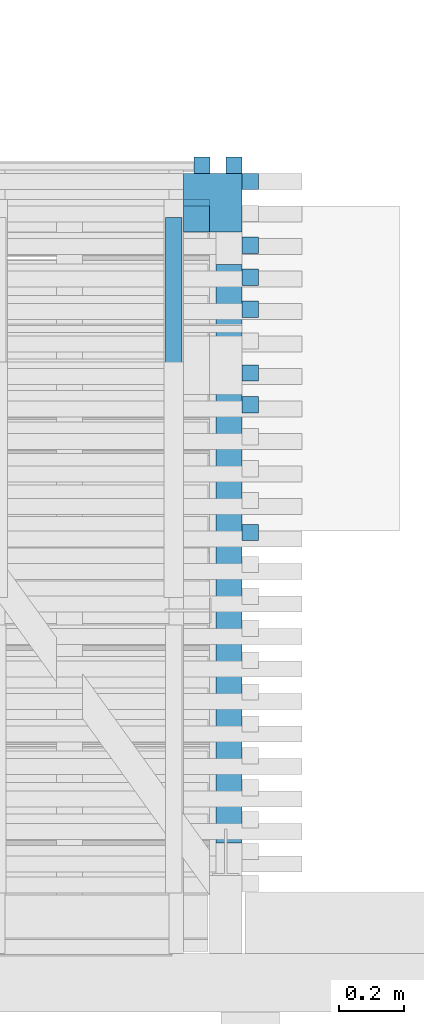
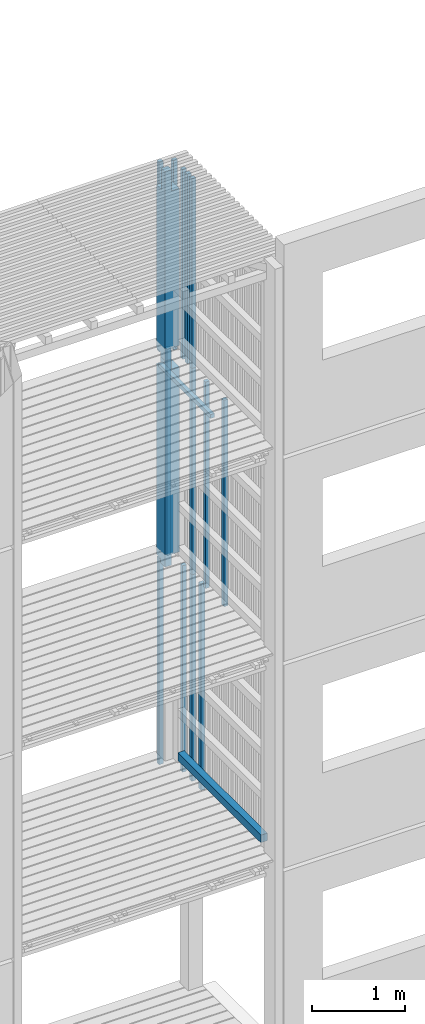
# One storey, part 107 of 182: 17 beams.
"""IFC2X3 building model written with IfcOpenShell, lengths in metres."""

from ifc_helpers import new_model, si_unit, frame, origin, place, context, project, spatial, faceted_brep, element, save


model = new_model("IFC2X3")

# Units and contexts
model_context = context("Model", 3, precision=1e-06, world=origin())
ifc_project = project(units=[si_unit("LENGTHUNIT", "METRE"), si_unit("PLANEANGLEUNIT", "RADIAN")], contexts=[model_context])

# Site, building, storey
site = spatial("IfcSite", under=ifc_project, CompositionType="ELEMENT")
building = spatial("IfcBuilding", under=site, CompositionType="ELEMENT")
storey = spatial("IfcBuildingStorey", under=building, Name="vs", CompositionType="ELEMENT", Elevation=-0.85)

# Beams
placement = place(None, origin())
beam_1_placement = place(placement, frame((46.320401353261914, 7.295077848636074, 5.274999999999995), z_axis=(0.0, -1.0, 0.0), x_axis=(0.0, 0.0, 1.0)))
element("IfcBeam", 1, at=beam_1_placement, inside=storey, Name="Bardage", context=model_context, shape_type="Brep", body=[
    faceted_brep([(2.699999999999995, 0.025000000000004, 0.025000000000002), (2.699999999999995, -0.025000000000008, 0.025000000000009), (2.699999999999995, -0.025000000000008, -0.024999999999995), (2.699999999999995, 0.02499999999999, -0.025000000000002), (1e-15, 0.025000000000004, 0.025000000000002), (2.699999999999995, 0.025000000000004, 0.025000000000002), (2.699999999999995, 0.02499999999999, -0.025000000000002), (1e-15, 0.02499999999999, -0.025000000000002), (1e-15, -0.025000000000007, 0.025000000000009), (1e-15, 0.025000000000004, 0.025000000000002), (1e-15, 0.02499999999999, -0.025000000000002), (1e-15, -0.025000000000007, -0.024999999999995), (1e-15, 0.025000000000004, 0.025000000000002), (1e-15, -0.025000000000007, 0.025000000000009), (2.699999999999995, -0.025000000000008, 0.025000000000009), (2.699999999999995, 0.025000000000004, 0.025000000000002), (1e-15, -0.025000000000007, 0.025000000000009), (1e-15, -0.025000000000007, -0.024999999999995), (2.699999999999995, -0.025000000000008, -0.024999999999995), (2.699999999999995, -0.025000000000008, 0.025000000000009), (1e-15, -0.025000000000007, -0.024999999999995), (1e-15, 0.02499999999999, -0.025000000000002), (2.699999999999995, 0.02499999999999, -0.025000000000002), (2.699999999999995, -0.025000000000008, -0.024999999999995)], [[[0, 1, 2, 3]], [[4, 5, 6, 7]], [[8, 9, 10, 11]], [[12, 13, 14, 15]], [[16, 17, 18, 19]], [[20, 21, 22, 23]]]),
])
beam_2_placement = place(placement, frame((46.37040135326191, 7.048714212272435, 2.575000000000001), z_axis=(-1.0, 0.0, 0.0), x_axis=(0.0, 0.0, 1.0)))
element("IfcBeam", 2, at=beam_2_placement, inside=storey, Name="Bardage", context=model_context, shape_type="Brep", body=[
    faceted_brep([(0.0, -0.025000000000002, 0.024999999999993), (0.0, 0.024999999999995, 0.024999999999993), (0.0, 0.024999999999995, -0.025000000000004), (0.0, -0.025000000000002, -0.025000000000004), (2.699961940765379, 0.024999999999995, -0.025000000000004), (2.699961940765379, 0.024999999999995, 0.024999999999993), (2.699961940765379, -0.025000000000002, 0.024999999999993), (2.699961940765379, -0.025000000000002, -0.025000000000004), (0.0, -0.025000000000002, -0.025000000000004), (0.0, 0.024999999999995, -0.025000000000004), (2.699961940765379, 0.024999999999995, -0.025000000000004), (2.699961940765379, -0.025000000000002, -0.025000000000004), (2.699961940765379, 0.024999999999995, -0.025000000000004), (0.0, 0.024999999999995, -0.025000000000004), (0.0, 0.024999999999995, 0.024999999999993), (2.699961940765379, 0.024999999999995, 0.024999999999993), (2.699961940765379, 0.024999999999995, 0.024999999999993), (0.0, 0.024999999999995, 0.024999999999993), (0.0, -0.025000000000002, 0.024999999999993), (2.699961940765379, -0.025000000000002, 0.024999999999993), (2.699961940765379, -0.025000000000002, 0.024999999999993), (0.0, -0.025000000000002, 0.024999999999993), (0.0, -0.025000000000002, -0.025000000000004), (2.699961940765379, -0.025000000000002, -0.025000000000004)], [[[0, 1, 2, 3]], [[4, 5, 6, 7]], [[8, 9, 10, 11]], [[12, 13, 14, 15]], [[16, 17, 18, 19]], [[20, 21, 22, 23]]]),
])
beam_3_placement = place(placement, frame((46.37040135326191, 6.655986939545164, 2.575000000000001), z_axis=(-1.0, 0.0, 0.0), x_axis=(0.0, 0.0, 1.0)))
element("IfcBeam", 3, at=beam_3_placement, inside=storey, Name="Bardage", context=model_context, shape_type="Brep", body=[
    faceted_brep([(0.0, -0.025000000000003, 0.024999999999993), (0.0, 0.025000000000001, 0.024999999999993), (0.0, 0.025000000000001, -0.025000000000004), (0.0, -0.025000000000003, -0.025000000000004), (2.699961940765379, 0.025000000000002, -0.025000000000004), (2.699961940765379, 0.025000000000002, 0.024999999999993), (2.699961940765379, -0.024999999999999, 0.024999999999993), (2.699961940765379, -0.024999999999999, -0.025000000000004), (0.0, -0.025000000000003, -0.025000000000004), (0.0, 0.025000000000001, -0.025000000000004), (2.699961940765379, 0.025000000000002, -0.025000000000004), (2.699961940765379, -0.024999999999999, -0.025000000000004), (2.699961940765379, 0.025000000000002, -0.025000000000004), (0.0, 0.025000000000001, -0.025000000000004), (0.0, 0.025000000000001, 0.024999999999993), (2.699961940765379, 0.025000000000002, 0.024999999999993), (2.699961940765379, 0.025000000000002, 0.024999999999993), (0.0, 0.025000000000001, 0.024999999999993), (0.0, -0.025000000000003, 0.024999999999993), (2.699961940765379, -0.024999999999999, 0.024999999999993), (2.699961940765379, -0.024999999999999, 0.024999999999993), (0.0, -0.025000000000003, 0.024999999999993), (0.0, -0.025000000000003, -0.025000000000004), (2.699961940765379, -0.024999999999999, -0.025000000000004)], [[[0, 1, 2, 3]], [[4, 5, 6, 7]], [[8, 9, 10, 11]], [[12, 13, 14, 15]], [[16, 17, 18, 19]], [[20, 21, 22, 23]]]),
])
beam_4_placement = place(placement, frame((46.37040135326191, 6.950532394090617, 7.974999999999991), z_axis=(-1.0, 0.0, 0.0), x_axis=(0.0, 0.0, 1.0)))
element("IfcBeam", 4, at=beam_4_placement, inside=storey, Name="Bardage", context=model_context, shape_type="Brep", body=[
    faceted_brep([(2.479999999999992, -0.025000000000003, 0.024999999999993), (2.479999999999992, -0.025000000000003, -0.025000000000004), (2.479999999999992, 0.024999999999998, -0.025000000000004), (2.479999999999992, 0.024999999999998, 0.024999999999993), (0.0, 0.024999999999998, 0.024999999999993), (0.0, -0.025000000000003, 0.024999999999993), (2.479999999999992, -0.025000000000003, 0.024999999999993), (2.479999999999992, 0.024999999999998, 0.024999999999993), (0.0, -0.025000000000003, 0.024999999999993), (0.0, 0.024999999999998, 0.024999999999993), (0.0, 0.024999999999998, -0.025000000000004), (0.0, -0.025000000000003, -0.025000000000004), (0.0, 0.024999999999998, -0.025000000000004), (0.0, 0.024999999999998, 0.024999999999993), (2.479999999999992, 0.024999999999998, 0.024999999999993), (2.479999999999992, 0.024999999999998, -0.025000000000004), (0.0, -0.025000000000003, -0.025000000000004), (0.0, 0.024999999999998, -0.025000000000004), (2.479999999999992, 0.024999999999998, -0.025000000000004), (2.479999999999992, -0.025000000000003, -0.025000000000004), (2.479999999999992, -0.025000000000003, 0.024999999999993), (0.0, -0.025000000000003, 0.024999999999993), (0.0, -0.025000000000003, -0.025000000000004), (2.479999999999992, -0.025000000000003, -0.025000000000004)], [[[0, 1, 2, 3]], [[4, 5, 6, 7]], [[8, 9, 10, 11]], [[12, 13, 14, 15]], [[16, 17, 18, 19]], [[20, 21, 22, 23]]]),
])
beam_5_placement = place(placement, frame((46.25540135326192, 7.180077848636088, 7.979999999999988), z_axis=(0.0, -1.0, 0.0), x_axis=(0.0, 0.0, 1.0)))
element("IfcBeam", 5, at=beam_5_placement, inside=storey, Name="Poteau", context=model_context, shape_type="Brep", body=[
    faceted_brep([(2.474999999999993, 0.009999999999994, 0.089999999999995), (2.474999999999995, 0.009999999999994, 0.009999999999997), (2.474999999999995, 0.090000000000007, 0.009999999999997), (2.474999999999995, 0.090000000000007, 0.089999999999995), (2.194999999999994, 0.009999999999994, 0.089999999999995), (2.194999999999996, 0.009999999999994, 0.009999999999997), (2.474999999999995, 0.009999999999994, 0.009999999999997), (2.474999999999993, 0.009999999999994, 0.089999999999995), (2.194999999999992, -0.09, 0.089999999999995), (2.194999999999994, -0.09, -0.090000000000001), (2.194999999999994, 0.090000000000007, -0.090000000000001), (2.194999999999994, 0.090000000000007, 0.009999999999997), (2.194999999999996, 0.009999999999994, 0.009999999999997), (2.194999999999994, 0.009999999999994, 0.089999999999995), (2.474999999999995, 0.090000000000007, 0.009999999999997), (2.474999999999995, 0.009999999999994, 0.009999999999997), (2.194999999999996, 0.009999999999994, 0.009999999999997), (2.194999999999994, 0.090000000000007, 0.009999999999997), (0.059999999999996, 0.090000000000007, -0.010000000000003), (-1e-15, 0.090000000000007, -0.010000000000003), (-1e-15, 0.090000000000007, 0.089999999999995), (2.474999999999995, 0.090000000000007, 0.089999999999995), (2.474999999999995, 0.090000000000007, 0.009999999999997), (2.194999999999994, 0.090000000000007, 0.009999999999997), (2.194999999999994, 0.090000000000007, -0.090000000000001), (0.059999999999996, 0.090000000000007, -0.090000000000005), (0.139999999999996, -0.09, 0.089999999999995), (0.139999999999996, 0.009999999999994, 0.089999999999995), (0.139999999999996, 0.009999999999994, -0.090000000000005), (0.139999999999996, -0.09, -0.090000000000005), (-1e-15, 0.090000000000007, -0.010000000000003), (0.059999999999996, 0.090000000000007, -0.010000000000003), (0.059999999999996, 0.009999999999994, -0.009999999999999), (-1e-15, 0.009999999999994, -0.010000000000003), (-1e-15, 0.090000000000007, 0.089999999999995), (-1e-15, 0.090000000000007, -0.010000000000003), (-1e-15, 0.009999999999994, -0.010000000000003), (-1e-15, 0.009999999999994, 0.089999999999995), (0.139999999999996, 0.009999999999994, -0.090000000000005), (0.139999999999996, 0.009999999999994, 0.089999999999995), (-1e-15, 0.009999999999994, 0.089999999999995), (-1e-15, 0.009999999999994, -0.010000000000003), (0.059999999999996, 0.009999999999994, -0.009999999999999), (0.059999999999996, 0.009999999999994, -0.090000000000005), (0.059999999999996, 0.009999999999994, -0.090000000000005), (0.059999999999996, 0.009999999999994, -0.009999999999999), (0.059999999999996, 0.090000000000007, -0.010000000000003), (0.059999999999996, 0.090000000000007, -0.090000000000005), (0.139999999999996, -0.09, -0.090000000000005), (0.139999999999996, 0.009999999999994, -0.090000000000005), (0.059999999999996, 0.009999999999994, -0.090000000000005), (0.059999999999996, 0.090000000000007, -0.090000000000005), (2.194999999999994, 0.090000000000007, -0.090000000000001), (2.194999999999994, -0.09, -0.090000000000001), (2.194999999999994, -0.09, -0.090000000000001), (2.194999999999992, -0.09, 0.089999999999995), (0.139999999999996, -0.09, 0.089999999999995), (0.139999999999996, -0.09, -0.090000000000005), (-1e-15, 0.090000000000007, 0.089999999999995), (-1e-15, 0.009999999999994, 0.089999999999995), (0.139999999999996, 0.009999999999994, 0.089999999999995), (0.139999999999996, -0.09, 0.089999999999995), (2.194999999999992, -0.09, 0.089999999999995), (2.194999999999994, 0.009999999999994, 0.089999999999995), (2.474999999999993, 0.009999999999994, 0.089999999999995), (2.474999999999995, 0.090000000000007, 0.089999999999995)], [[[0, 1, 2, 3]], [[4, 5, 6, 7]], [[8, 9, 10, 11, 12, 13]], [[14, 15, 16, 17]], [[18, 19, 20, 21, 22, 23, 24, 25]], [[26, 27, 28, 29]], [[30, 31, 32, 33]], [[34, 35, 36, 37]], [[38, 39, 40, 41, 42, 43]], [[44, 45, 46, 47]], [[48, 49, 50, 51, 52, 53]], [[54, 55, 56, 57]], [[58, 59, 60, 61, 62, 63, 64, 65]]]),
])
beam_6_placement = place(placement, frame((46.37040135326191, 6.557805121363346, 5.274999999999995), z_axis=(-1.0, 0.0, 0.0), x_axis=(0.0, 0.0, 1.0)))
element("IfcBeam", 6, at=beam_6_placement, inside=storey, Name="Bardage", context=model_context, shape_type="Brep", body=[
    faceted_brep([(1e-15, -0.024999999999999, 0.024999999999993), (1e-15, 0.024999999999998, 0.024999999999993), (1e-15, 0.024999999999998, -0.025000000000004), (1e-15, -0.024999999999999, -0.025000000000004), (2.699999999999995, -0.024999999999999, -0.025000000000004), (2.699999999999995, 0.025000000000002, -0.025000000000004), (2.699999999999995, 0.025000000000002, 0.024999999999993), (2.699999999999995, -0.024999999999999, 0.024999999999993), (1e-15, -0.024999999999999, 0.024999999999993), (1e-15, -0.024999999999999, -0.025000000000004), (2.699999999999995, -0.024999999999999, -0.025000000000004), (2.699999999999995, -0.024999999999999, 0.024999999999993), (2.699999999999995, -0.024999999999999, -0.025000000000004), (1e-15, -0.024999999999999, -0.025000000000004), (1e-15, 0.024999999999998, -0.025000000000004), (2.699999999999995, 0.025000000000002, -0.025000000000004), (2.699999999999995, 0.025000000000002, -0.025000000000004), (1e-15, 0.024999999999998, -0.025000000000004), (1e-15, 0.024999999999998, 0.024999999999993), (2.699999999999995, 0.025000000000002, 0.024999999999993), (2.699999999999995, 0.025000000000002, 0.024999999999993), (1e-15, 0.024999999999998, 0.024999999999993), (1e-15, -0.024999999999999, 0.024999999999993), (2.699999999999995, -0.024999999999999, 0.024999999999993)], [[[0, 1, 2, 3]], [[4, 5, 6, 7]], [[8, 9, 10, 11]], [[12, 13, 14, 15]], [[16, 17, 18, 19]], [[20, 21, 22, 23]]]),
])
beam_7_placement = place(placement, frame((46.22221953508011, 7.295077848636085, 2.575000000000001), z_axis=(0.0, -1.0, 0.0), x_axis=(0.0, 0.0, 1.0)))
element("IfcBeam", 7, at=beam_7_placement, inside=storey, Name="Bardage", context=model_context, shape_type="Brep", body=[
    faceted_brep([(2.699961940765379, -0.024999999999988, 0.025000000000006), (2.699961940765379, -0.025000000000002, -0.024999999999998), (2.699961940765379, 0.024999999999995, -0.025000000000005), (2.699961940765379, 0.025000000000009, 0.024999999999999), (0.0, -0.024999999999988, 0.025000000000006), (2.699961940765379, -0.024999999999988, 0.025000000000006), (2.699961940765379, 0.025000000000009, 0.024999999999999), (0.0, 0.025000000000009, 0.024999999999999), (0.0, -0.024999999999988, 0.025000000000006), (0.0, 0.025000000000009, 0.024999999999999), (0.0, 0.024999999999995, -0.025000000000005), (0.0, -0.025000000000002, -0.024999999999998), (0.0, -0.024999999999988, 0.025000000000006), (0.0, -0.025000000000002, -0.024999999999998), (2.699961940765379, -0.025000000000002, -0.024999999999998), (2.699961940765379, -0.024999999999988, 0.025000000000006), (0.0, -0.025000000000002, -0.024999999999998), (0.0, 0.024999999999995, -0.025000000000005), (2.699961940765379, 0.024999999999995, -0.025000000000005), (2.699961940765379, -0.025000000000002, -0.024999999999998), (0.0, 0.024999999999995, -0.025000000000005), (0.0, 0.025000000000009, 0.024999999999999), (2.699961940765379, 0.025000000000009, 0.024999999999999), (2.699961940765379, 0.024999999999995, -0.025000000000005)], [[[0, 1, 2, 3]], [[4, 5, 6, 7]], [[8, 9, 10, 11]], [[12, 13, 14, 15]], [[16, 17, 18, 19]], [[20, 21, 22, 23]]]),
])
beam_8_placement = place(placement, frame((46.37040135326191, 6.852350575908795, 2.575000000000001), z_axis=(-1.0, 0.0, 0.0), x_axis=(0.0, 0.0, 1.0)))
element("IfcBeam", 8, at=beam_8_placement, inside=storey, Name="Bardage", context=model_context, shape_type="Brep", body=[
    faceted_brep([(0.0, -0.024999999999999, 0.024999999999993), (0.0, 0.025000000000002, 0.024999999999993), (0.0, 0.025000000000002, -0.025000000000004), (0.0, -0.024999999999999, -0.025000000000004), (2.699961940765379, 0.025000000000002, -0.025000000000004), (2.699961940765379, 0.025000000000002, 0.024999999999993), (2.699961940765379, -0.024999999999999, 0.024999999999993), (2.699961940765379, -0.024999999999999, -0.025000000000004), (0.0, -0.024999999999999, -0.025000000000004), (0.0, 0.025000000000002, -0.025000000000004), (2.699961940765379, 0.025000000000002, -0.025000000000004), (2.699961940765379, -0.024999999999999, -0.025000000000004), (2.699961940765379, 0.025000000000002, -0.025000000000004), (0.0, 0.025000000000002, -0.025000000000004), (0.0, 0.025000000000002, 0.024999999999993), (2.699961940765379, 0.025000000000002, 0.024999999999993), (2.699961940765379, 0.025000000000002, 0.024999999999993), (0.0, 0.025000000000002, 0.024999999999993), (0.0, -0.024999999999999, 0.024999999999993), (2.699961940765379, -0.024999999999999, 0.024999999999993), (2.699961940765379, -0.024999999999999, 0.024999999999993), (0.0, -0.024999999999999, 0.024999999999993), (0.0, -0.024999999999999, -0.025000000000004), (2.699961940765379, -0.024999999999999, -0.025000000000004)], [[[0, 1, 2, 3]], [[4, 5, 6, 7]], [[8, 9, 10, 11]], [[12, 13, 14, 15]], [[16, 17, 18, 19]], [[20, 21, 22, 23]]]),
])
beam_9_placement = place(placement, frame((46.37040135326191, 6.852350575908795, 5.274999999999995), z_axis=(-1.0, 0.0, 0.0), x_axis=(0.0, 0.0, 1.0)))
element("IfcBeam", 9, at=beam_9_placement, inside=storey, Name="Bardage", context=model_context, shape_type="Brep", body=[
    faceted_brep([(1e-15, -0.024999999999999, 0.024999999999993), (1e-15, 0.025000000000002, 0.024999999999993), (1e-15, 0.025000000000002, -0.025000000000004), (1e-15, -0.024999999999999, -0.025000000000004), (2.699999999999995, -0.024999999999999, -0.025000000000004), (2.699999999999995, 0.025000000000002, -0.025000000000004), (2.699999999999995, 0.025000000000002, 0.024999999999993), (2.699999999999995, -0.024999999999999, 0.024999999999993), (1e-15, -0.024999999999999, 0.024999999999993), (1e-15, -0.024999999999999, -0.025000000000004), (2.699999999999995, -0.024999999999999, -0.025000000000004), (2.699999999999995, -0.024999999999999, 0.024999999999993), (2.699999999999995, -0.024999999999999, -0.025000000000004), (1e-15, -0.024999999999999, -0.025000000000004), (1e-15, 0.025000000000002, -0.025000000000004), (2.699999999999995, 0.025000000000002, -0.025000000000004), (2.699999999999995, 0.025000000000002, -0.025000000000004), (1e-15, 0.025000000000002, -0.025000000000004), (1e-15, 0.025000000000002, 0.024999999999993), (2.699999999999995, 0.025000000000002, 0.024999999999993), (2.699999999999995, 0.025000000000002, 0.024999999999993), (1e-15, 0.025000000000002, 0.024999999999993), (1e-15, -0.024999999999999, 0.024999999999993), (2.699999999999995, -0.024999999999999, 0.024999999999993)], [[[0, 1, 2, 3]], [[4, 5, 6, 7]], [[8, 9, 10, 11]], [[12, 13, 14, 15]], [[16, 17, 18, 19]], [[20, 21, 22, 23]]]),
])
beam_10_placement = place(placement, frame((46.22221953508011, 7.295077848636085, 7.974999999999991), z_axis=(0.0, -1.0, 0.0), x_axis=(0.0, 0.0, 1.0)))
element("IfcBeam", 10, at=beam_10_placement, inside=storey, Name="Bardage", context=model_context, shape_type="Brep", body=[
    faceted_brep([(0.0, -0.024999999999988, 0.025000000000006), (0.0, 0.025000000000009, 0.024999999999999), (0.0, 0.024999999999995, -0.025000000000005), (0.0, -0.025000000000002, -0.024999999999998), (2.479999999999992, 0.024999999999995, -0.025000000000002), (2.479999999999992, 0.025000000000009, 0.024999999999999), (2.479999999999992, -0.024999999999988, 0.025000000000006), (2.479999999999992, -0.025000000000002, -0.024999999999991), (0.0, 0.025000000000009, 0.024999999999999), (0.0, -0.024999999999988, 0.025000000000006), (2.479999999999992, -0.024999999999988, 0.025000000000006), (2.479999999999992, 0.025000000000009, 0.024999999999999), (0.0, 0.024999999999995, -0.025000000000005), (0.0, 0.025000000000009, 0.024999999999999), (2.479999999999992, 0.025000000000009, 0.024999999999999), (2.479999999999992, 0.024999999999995, -0.025000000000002), (0.0, -0.025000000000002, -0.024999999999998), (0.0, 0.024999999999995, -0.025000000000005), (2.479999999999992, 0.024999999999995, -0.025000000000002), (2.479999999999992, -0.025000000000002, -0.024999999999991), (2.479999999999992, -0.024999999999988, 0.025000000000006), (0.0, -0.024999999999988, 0.025000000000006), (0.0, -0.025000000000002, -0.024999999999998), (2.479999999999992, -0.025000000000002, -0.024999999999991)], [[[0, 1, 2, 3]], [[4, 5, 6, 7]], [[8, 9, 10, 11]], [[12, 13, 14, 15]], [[16, 17, 18, 19]], [[20, 21, 22, 23]]]),
])
beam_11_placement = place(placement, frame((46.37040135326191, 7.24507784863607, 7.974999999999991), z_axis=(-1.0, 0.0, 0.0), x_axis=(0.0, 0.0, 1.0)))
element("IfcBeam", 11, at=beam_11_placement, inside=storey, Name="Bardage", context=model_context, shape_type="Brep", body=[
    faceted_brep([(2.479999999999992, -0.025000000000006, 0.024999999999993), (2.479999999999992, -0.025000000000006, -0.025000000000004), (2.479999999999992, 0.024999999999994, -0.025000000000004), (2.479999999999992, 0.024999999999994, 0.024999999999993), (0.0, 0.024999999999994, 0.024999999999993), (0.0, -0.025000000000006, 0.024999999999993), (2.479999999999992, -0.025000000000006, 0.024999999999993), (2.479999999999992, 0.024999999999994, 0.024999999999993), (0.0, -0.025000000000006, 0.024999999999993), (0.0, 0.024999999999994, 0.024999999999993), (0.0, 0.024999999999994, -0.025000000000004), (0.0, -0.025000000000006, -0.025000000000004), (0.0, 0.024999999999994, -0.025000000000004), (0.0, 0.024999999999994, 0.024999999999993), (2.479999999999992, 0.024999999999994, 0.024999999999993), (2.479999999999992, 0.024999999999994, -0.025000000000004), (0.0, -0.025000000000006, -0.025000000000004), (0.0, 0.024999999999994, -0.025000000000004), (2.479999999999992, 0.024999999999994, -0.025000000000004), (2.479999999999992, -0.025000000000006, -0.025000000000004), (2.479999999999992, -0.025000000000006, 0.024999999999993), (0.0, -0.025000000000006, 0.024999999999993), (0.0, -0.025000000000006, -0.025000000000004), (2.479999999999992, -0.025000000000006, -0.025000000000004)], [[[0, 1, 2, 3]], [[4, 5, 6, 7]], [[8, 9, 10, 11]], [[12, 13, 14, 15]], [[16, 17, 18, 19]], [[20, 21, 22, 23]]]),
])
beam_12_placement = place(placement, frame((46.13540135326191, 7.135077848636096, 7.91739999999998), z_axis=(0.0, 0.0, 1.0), x_axis=(0.0, -1.0, 0.0)))
element("IfcBeam", 12, at=beam_12_placement, inside=storey, Name="Calage", context=model_context, shape_type="Brep", body=[
    faceted_brep([(0.0, 0.025000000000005, -0.025), (0.0, -0.024999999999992, -0.025), (0.0, -0.024999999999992, 0.024999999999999), (0.0, 0.025000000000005, 0.024999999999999), (1.115000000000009, -0.024999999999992, 0.024999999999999), (1.115000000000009, -0.024999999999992, -0.025), (1.115000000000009, 0.025000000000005, -0.025), (1.115000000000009, 0.025000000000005, 0.024999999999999), (0.0, -0.024999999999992, 0.024999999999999), (0.0, -0.024999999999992, -0.025), (1.115000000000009, -0.024999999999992, -0.025), (1.115000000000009, -0.024999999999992, 0.024999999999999), (1.115000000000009, -0.024999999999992, -0.025), (0.0, -0.024999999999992, -0.025), (0.0, 0.025000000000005, -0.025), (1.115000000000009, 0.025000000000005, -0.025), (1.115000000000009, 0.025000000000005, -0.025), (0.0, 0.025000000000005, -0.025), (0.0, 0.025000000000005, 0.024999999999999), (1.115000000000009, 0.025000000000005, 0.024999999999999), (1.115000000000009, 0.025000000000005, 0.024999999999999), (0.0, 0.025000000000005, 0.024999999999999), (0.0, -0.024999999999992, 0.024999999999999), (1.115000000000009, -0.024999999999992, 0.024999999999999)], [[[0, 1, 2, 3]], [[4, 5, 6, 7]], [[8, 9, 10, 11]], [[12, 13, 14, 15]], [[16, 17, 18, 19]], [[20, 21, 22, 23]]]),
])
beam_13_placement = place(placement, frame((46.37040135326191, 6.852350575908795, 7.974999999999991), z_axis=(-1.0, 0.0, 0.0), x_axis=(0.0, 0.0, 1.0)))
element("IfcBeam", 13, at=beam_13_placement, inside=storey, Name="Bardage", context=model_context, shape_type="Brep", body=[
    faceted_brep([(2.479999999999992, -0.024999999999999, 0.024999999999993), (2.479999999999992, -0.024999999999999, -0.025000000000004), (2.479999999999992, 0.025000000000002, -0.025000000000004), (2.479999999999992, 0.025000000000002, 0.024999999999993), (0.0, 0.025000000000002, 0.024999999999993), (0.0, -0.024999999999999, 0.024999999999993), (2.479999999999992, -0.024999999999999, 0.024999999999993), (2.479999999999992, 0.025000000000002, 0.024999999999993), (0.0, -0.024999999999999, 0.024999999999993), (0.0, 0.025000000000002, 0.024999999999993), (0.0, 0.025000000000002, -0.025000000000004), (0.0, -0.024999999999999, -0.025000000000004), (0.0, 0.025000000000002, -0.025000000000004), (0.0, 0.025000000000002, 0.024999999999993), (2.479999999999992, 0.025000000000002, 0.024999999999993), (2.479999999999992, 0.025000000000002, -0.025000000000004), (0.0, -0.024999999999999, -0.025000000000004), (0.0, 0.025000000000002, -0.025000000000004), (2.479999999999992, 0.025000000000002, -0.025000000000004), (2.479999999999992, -0.024999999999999, -0.025000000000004), (2.479999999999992, -0.024999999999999, 0.024999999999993), (0.0, -0.024999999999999, 0.024999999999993), (0.0, -0.024999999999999, -0.025000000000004), (2.479999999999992, -0.024999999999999, -0.025000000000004)], [[[0, 1, 2, 3]], [[4, 5, 6, 7]], [[8, 9, 10, 11]], [[12, 13, 14, 15]], [[16, 17, 18, 19]], [[20, 21, 22, 23]]]),
])
beam_14_placement = place(placement, frame((46.25540135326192, 7.180077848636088, 5.279999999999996), z_axis=(0.0, -1.0, 0.0), x_axis=(0.0, 0.0, 1.0)))
element("IfcBeam", 14, at=beam_14_placement, inside=storey, Name="Poteau", context=model_context, shape_type="Brep", body=[
    faceted_brep([(0.139999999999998, -0.09, 0.089999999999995), (0.139999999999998, 0.009999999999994, 0.089999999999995), (0.139999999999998, 0.009999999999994, -0.090000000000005), (0.139999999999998, -0.09, -0.090000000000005), (0.059999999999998, 0.090000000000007, -0.010000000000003), (0.059999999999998, 0.009999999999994, -0.009999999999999), (-1e-15, 0.009999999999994, -0.009999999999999), (-1e-15, 0.090000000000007, -0.009999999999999), (-1e-15, 0.090000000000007, 0.089999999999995), (-1e-15, 0.090000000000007, -0.009999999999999), (-1e-15, 0.009999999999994, -0.009999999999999), (-1e-15, 0.009999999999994, 0.089999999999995), (0.139999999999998, 0.009999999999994, -0.090000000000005), (0.139999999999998, 0.009999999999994, 0.089999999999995), (-1e-15, 0.009999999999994, 0.089999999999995), (-1e-15, 0.009999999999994, -0.009999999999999), (0.059999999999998, 0.009999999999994, -0.009999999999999), (0.059999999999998, 0.009999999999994, -0.090000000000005), (0.059999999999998, 0.009999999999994, -0.090000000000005), (0.059999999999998, 0.009999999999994, -0.009999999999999), (0.059999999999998, 0.090000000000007, -0.010000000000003), (0.059999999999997, 0.090000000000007, -0.090000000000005), (0.139999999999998, -0.09, -0.090000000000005), (0.139999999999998, 0.009999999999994, -0.090000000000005), (0.059999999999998, 0.009999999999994, -0.090000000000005), (0.059999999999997, 0.090000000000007, -0.090000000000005), (2.559999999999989, 0.090000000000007, -0.090000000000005), (2.559999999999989, -0.09, -0.090000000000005), (2.559999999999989, -0.09, 0.089999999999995), (0.139999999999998, -0.09, 0.089999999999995), (0.139999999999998, -0.09, -0.090000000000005), (2.559999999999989, -0.09, -0.090000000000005), (2.559999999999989, 0.090000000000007, -0.010000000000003), (2.559999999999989, 0.090000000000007, -0.090000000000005), (0.059999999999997, 0.090000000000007, -0.090000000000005), (0.059999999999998, 0.090000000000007, -0.010000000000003), (-1e-15, 0.090000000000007, -0.009999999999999), (-1e-15, 0.090000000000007, 0.089999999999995), (2.69999999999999, 0.090000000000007, 0.089999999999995), (2.69999999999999, 0.090000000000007, -0.009999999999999), (2.69999999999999, 0.009999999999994, 0.089999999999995), (2.69999999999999, 0.090000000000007, 0.089999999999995), (-1e-15, 0.090000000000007, 0.089999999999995), (-1e-15, 0.009999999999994, 0.089999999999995), (0.139999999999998, 0.009999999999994, 0.089999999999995), (0.139999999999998, -0.09, 0.089999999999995), (2.559999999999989, -0.09, 0.089999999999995), (2.559999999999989, 0.009999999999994, 0.089999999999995), (2.559999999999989, 0.090000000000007, -0.010000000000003), (2.69999999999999, 0.090000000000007, -0.009999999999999), (2.69999999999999, 0.009999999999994, -0.010000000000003), (2.559999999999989, 0.009999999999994, -0.010000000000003), (2.559999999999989, 0.009999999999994, 0.089999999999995), (2.559999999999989, -0.09, 0.089999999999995), (2.559999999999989, -0.09, -0.090000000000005), (2.559999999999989, 0.090000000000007, -0.090000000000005), (2.559999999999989, 0.090000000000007, -0.010000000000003), (2.559999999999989, 0.009999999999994, -0.010000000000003), (2.69999999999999, 0.009999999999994, 0.089999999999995), (2.559999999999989, 0.009999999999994, 0.089999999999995), (2.559999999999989, 0.009999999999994, -0.010000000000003), (2.69999999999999, 0.009999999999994, -0.010000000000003), (2.69999999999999, 0.090000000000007, 0.089999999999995), (2.69999999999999, 0.009999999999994, 0.089999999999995), (2.69999999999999, 0.009999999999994, -0.010000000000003), (2.69999999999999, 0.090000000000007, -0.009999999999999)], [[[0, 1, 2, 3]], [[4, 5, 6, 7]], [[8, 9, 10, 11]], [[12, 13, 14, 15, 16, 17]], [[18, 19, 20, 21]], [[22, 23, 24, 25, 26, 27]], [[28, 29, 30, 31]], [[32, 33, 34, 35, 36, 37, 38, 39]], [[40, 41, 42, 43, 44, 45, 46, 47]], [[48, 49, 50, 51]], [[52, 53, 54, 55, 56, 57]], [[58, 59, 60, 61]], [[62, 63, 64, 65]]]),
])
beam_15_placement = place(placement, frame((46.37040135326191, 7.048714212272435, 7.974999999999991), z_axis=(-1.0, 0.0, 0.0), x_axis=(0.0, 0.0, 1.0)))
element("IfcBeam", 15, at=beam_15_placement, inside=storey, Name="Bardage", context=model_context, shape_type="Brep", body=[
    faceted_brep([(2.479999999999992, -0.025000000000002, 0.024999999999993), (2.479999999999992, -0.025000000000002, -0.025000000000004), (2.479999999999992, 0.024999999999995, -0.025000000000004), (2.479999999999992, 0.024999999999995, 0.024999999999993), (0.0, 0.024999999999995, 0.024999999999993), (0.0, -0.025000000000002, 0.024999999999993), (2.479999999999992, -0.025000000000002, 0.024999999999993), (2.479999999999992, 0.024999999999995, 0.024999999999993), (0.0, -0.025000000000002, 0.024999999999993), (0.0, 0.024999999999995, 0.024999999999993), (0.0, 0.024999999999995, -0.025000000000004), (0.0, -0.025000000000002, -0.025000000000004), (0.0, 0.024999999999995, -0.025000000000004), (0.0, 0.024999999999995, 0.024999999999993), (2.479999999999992, 0.024999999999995, 0.024999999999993), (2.479999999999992, 0.024999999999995, -0.025000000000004), (0.0, -0.025000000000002, -0.025000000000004), (0.0, 0.024999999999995, -0.025000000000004), (2.479999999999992, 0.024999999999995, -0.025000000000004), (2.479999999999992, -0.025000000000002, -0.025000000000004), (2.479999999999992, -0.025000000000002, 0.024999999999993), (0.0, -0.025000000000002, 0.024999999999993), (0.0, -0.025000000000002, -0.025000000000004), (2.479999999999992, -0.025000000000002, -0.025000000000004)], [[[0, 1, 2, 3]], [[4, 5, 6, 7]], [[8, 9, 10, 11]], [[12, 13, 14, 15]], [[16, 17, 18, 19]], [[20, 21, 22, 23]]]),
])
beam_16_placement = place(placement, frame((46.30540135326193, 5.210077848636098, 2.830000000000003), z_axis=(0.0, 0.0, 1.0), x_axis=(0.0, 1.0, 0.0)))
element("IfcBeam", 16, at=beam_16_placement, inside=storey, Name="Support bardage", context=model_context, shape_type="Brep", body=[
    faceted_brep([(1.779999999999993, -0.039999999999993, 0.05), (1.779999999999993, -0.039999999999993, -0.050000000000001), (1.779999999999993, 0.04000000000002, -0.050000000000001), (1.779999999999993, 0.04000000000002, 0.05), (-4e-15, -0.039999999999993, -0.050000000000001), (1.779999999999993, -0.039999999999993, -0.050000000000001), (1.779999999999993, -0.039999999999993, 0.05), (-4e-15, -0.039999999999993, 0.05), (-4e-15, 0.04000000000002, -0.050000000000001), (1.779999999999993, 0.04000000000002, -0.050000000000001), (1.779999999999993, -0.039999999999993, -0.050000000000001), (-4e-15, -0.039999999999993, -0.050000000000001), (-4e-15, 0.04000000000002, 0.05), (1.779999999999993, 0.04000000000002, 0.05), (1.779999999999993, 0.04000000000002, -0.050000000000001), (-4e-15, 0.04000000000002, -0.050000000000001), (-4e-15, -0.039999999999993, 0.05), (1.779999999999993, -0.039999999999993, 0.05), (1.779999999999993, 0.04000000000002, 0.05), (-4e-15, 0.04000000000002, 0.05), (-4e-15, -0.039999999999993, -0.050000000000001), (-4e-15, -0.039999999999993, 0.05), (-4e-15, 0.04000000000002, 0.05), (-4e-15, 0.04000000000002, -0.050000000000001)], [[[0, 1, 2, 3]], [[4, 5, 6, 7]], [[8, 9, 10, 11]], [[12, 13, 14, 15]], [[16, 17, 18, 19]], [[20, 21, 22, 23]]]),
])
beam_17_placement = place(placement, frame((46.37040135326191, 6.165077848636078, 5.274999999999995), z_axis=(-1.0, 0.0, 0.0), x_axis=(0.0, 1e-15, 1.0)))
element("IfcBeam", 17, at=beam_17_placement, inside=storey, Name="Bardage", context=model_context, shape_type="Brep", body=[
    faceted_brep([(1e-15, -0.024999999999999, 0.024999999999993), (1e-15, 0.025000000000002, 0.024999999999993), (1e-15, 0.025000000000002, -0.025000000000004), (1e-15, -0.024999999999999, -0.025000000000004), (2.699999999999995, -0.025000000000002, -0.025000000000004), (2.699999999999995, 0.024999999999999, -0.025000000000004), (2.699999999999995, 0.024999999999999, 0.024999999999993), (2.699999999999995, -0.025000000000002, 0.024999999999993), (1e-15, -0.024999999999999, 0.024999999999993), (1e-15, -0.024999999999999, -0.025000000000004), (2.699999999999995, -0.025000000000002, -0.025000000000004), (2.699999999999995, -0.025000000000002, 0.024999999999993), (2.699999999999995, -0.025000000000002, -0.025000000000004), (1e-15, -0.024999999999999, -0.025000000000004), (1e-15, 0.025000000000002, -0.025000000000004), (2.699999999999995, 0.024999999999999, -0.025000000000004), (2.699999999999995, 0.024999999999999, -0.025000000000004), (1e-15, 0.025000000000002, -0.025000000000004), (1e-15, 0.025000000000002, 0.024999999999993), (2.699999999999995, 0.024999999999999, 0.024999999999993), (2.699999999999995, 0.024999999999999, 0.024999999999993), (1e-15, 0.025000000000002, 0.024999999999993), (1e-15, -0.024999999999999, 0.024999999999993), (2.699999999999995, -0.025000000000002, 0.024999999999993)], [[[0, 1, 2, 3]], [[4, 5, 6, 7]], [[8, 9, 10, 11]], [[12, 13, 14, 15]], [[16, 17, 18, 19]], [[20, 21, 22, 23]]]),
])

save(model, "model.ifc")
